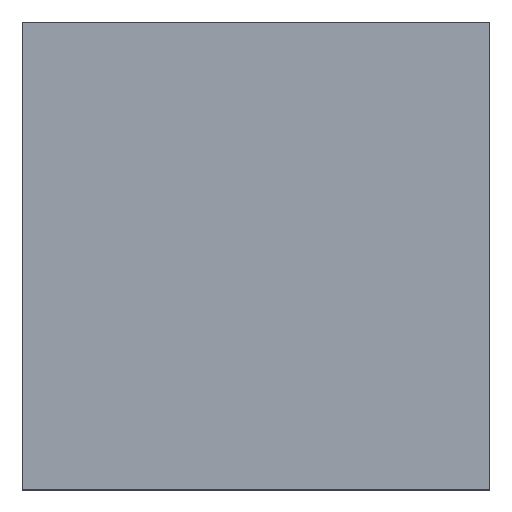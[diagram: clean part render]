
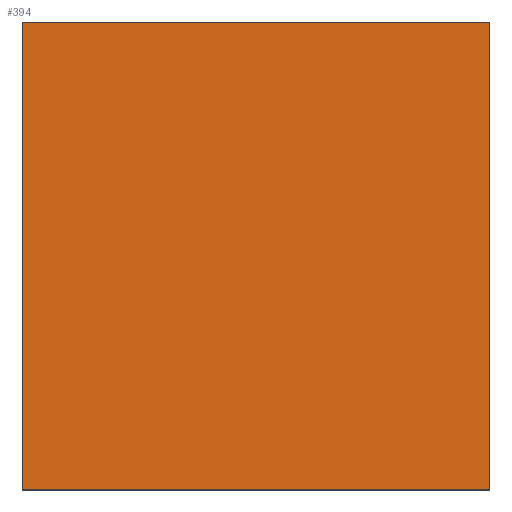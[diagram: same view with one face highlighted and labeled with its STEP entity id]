
A CAD part, top view. The second image highlights one B-rep face of the part: STEP entity #394.
In plain terms, the highlighted planar face has unit normal (0, 0, 1).
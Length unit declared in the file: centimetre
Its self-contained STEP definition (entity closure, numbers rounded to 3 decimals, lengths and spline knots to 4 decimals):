
#8 = VERTEX_POINT ( 'NONE', #60 ) ;
#28 = LINE ( 'NONE', #377, #195 ) ;
#36 = CARTESIAN_POINT ( 'NONE',  ( 1000., 1000., 1000. ) ) ;
#42 = EDGE_CURVE ( 'NONE', #8, #102, #28, .T. ) ;
#43 = CARTESIAN_POINT ( 'NONE',  ( 0., 0., 1000. ) ) ;
#60 = CARTESIAN_POINT ( 'NONE',  ( 0., 1000., 1000. ) ) ;
#88 = CARTESIAN_POINT ( 'NONE',  ( 1000., 1000., 1000. ) ) ;
#102 = VERTEX_POINT ( 'NONE', #227 ) ;
#104 = CARTESIAN_POINT ( 'NONE',  ( 0., 1000., 1000. ) ) ;
#107 = VECTOR ( 'NONE', #306, 100. ) ;
#111 = CARTESIAN_POINT ( 'NONE',  ( 0., 0., 1000. ) ) ;
#115 = PLANE ( 'NONE',  #328 ) ;
#131 = VERTEX_POINT ( 'NONE', #36 ) ;
#133 = ORIENTED_EDGE ( 'NONE', *, *, #491, .T. ) ;
#150 = VECTOR ( 'NONE', #256, 100. ) ;
#178 = LINE ( 'NONE', #111, #107 ) ;
#195 = VECTOR ( 'NONE', #253, 100. ) ;
#205 = EDGE_CURVE ( 'NONE', #102, #391, #178, .T. ) ;
#208 = LINE ( 'NONE', #104, #150 ) ;
#227 = CARTESIAN_POINT ( 'NONE',  ( 0., 0., 1000. ) ) ;
#253 = DIRECTION ( 'NONE',  ( 0., -1., 0. ) ) ;
#256 = DIRECTION ( 'NONE',  ( -1., 0., 0. ) ) ;
#267 = VECTOR ( 'NONE', #477, 100. ) ;
#275 = LINE ( 'NONE', #88, #267 ) ;
#284 = ORIENTED_EDGE ( 'NONE', *, *, #343, .T. ) ;
#295 = DIRECTION ( 'NONE',  ( 1., 0., 0. ) ) ;
#306 = DIRECTION ( 'NONE',  ( 1., 0., 0. ) ) ;
#322 = EDGE_LOOP ( 'NONE', ( #494, #374, #284, #133 ) ) ;
#328 = AXIS2_PLACEMENT_3D ( 'NONE', #43, #373, #295 ) ;
#343 = EDGE_CURVE ( 'NONE', #391, #131, #275, .T. ) ;
#367 = CARTESIAN_POINT ( 'NONE',  ( 1000., 0., 1000. ) ) ;
#373 = DIRECTION ( 'NONE',  ( 0., 0., 1. ) ) ;
#374 = ORIENTED_EDGE ( 'NONE', *, *, #205, .T. ) ;
#377 = CARTESIAN_POINT ( 'NONE',  ( 0., 1000., 1000. ) ) ;
#391 = VERTEX_POINT ( 'NONE', #367 ) ;
#394 = ADVANCED_FACE ( 'NONE', ( #428 ), #115, .T. ) ;
#428 = FACE_OUTER_BOUND ( 'NONE', #322, .T. ) ;
#477 = DIRECTION ( 'NONE',  ( 0., 1., 0. ) ) ;
#491 = EDGE_CURVE ( 'NONE', #131, #8, #208, .T. ) ;
#494 = ORIENTED_EDGE ( 'NONE', *, *, #42, .T. ) ;
